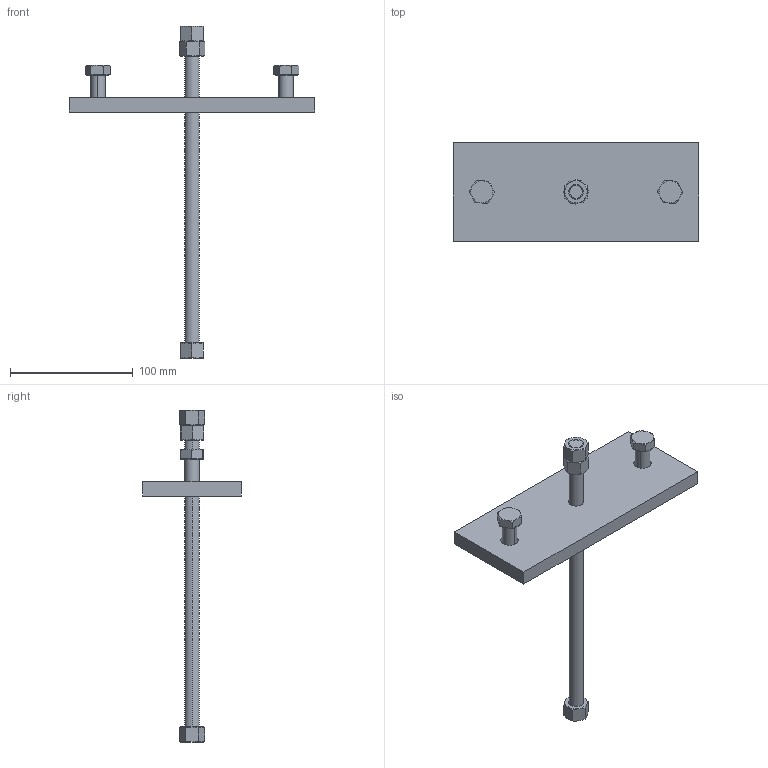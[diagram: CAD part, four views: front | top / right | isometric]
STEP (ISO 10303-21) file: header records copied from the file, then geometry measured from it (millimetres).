
FILE_DESCRIPTION (( 'STEP AP214' ), '1' );
FILE_NAME ('Assemblage12.STEP', '2023-06-27T09:23:56', ( '' ), ( '' ), 'SwSTEP 2.0', 'SolidWorks 2021', '' );
FILE_SCHEMA (( 'AUTOMOTIVE_DESIGN' ));
Length unit declared in the file: millimetre
Products named in the file (1): Assemblage12
Bounding box: 200 x 80 x 270 mm (x, y, z)
Volume: 235835.5 mm3; surface area: 58578.6 mm2
Topology: 7 solids, 7 shells, 154 faces, 328 edges, 190 vertices
Faces by surface type: cone 64, plane 62, cylinder 28
Entity records: 6232 total; most frequent: CARTESIAN_POINT 1225, DIRECTION 664, ORIENTED_EDGE 656, EDGE_CURVE 328, AXIS2_PLACEMENT_3D 277, VERTEX_POINT 190, EDGE_LOOP 168, UNCERTAINTY_MEASURE_WITH_UNIT 163
